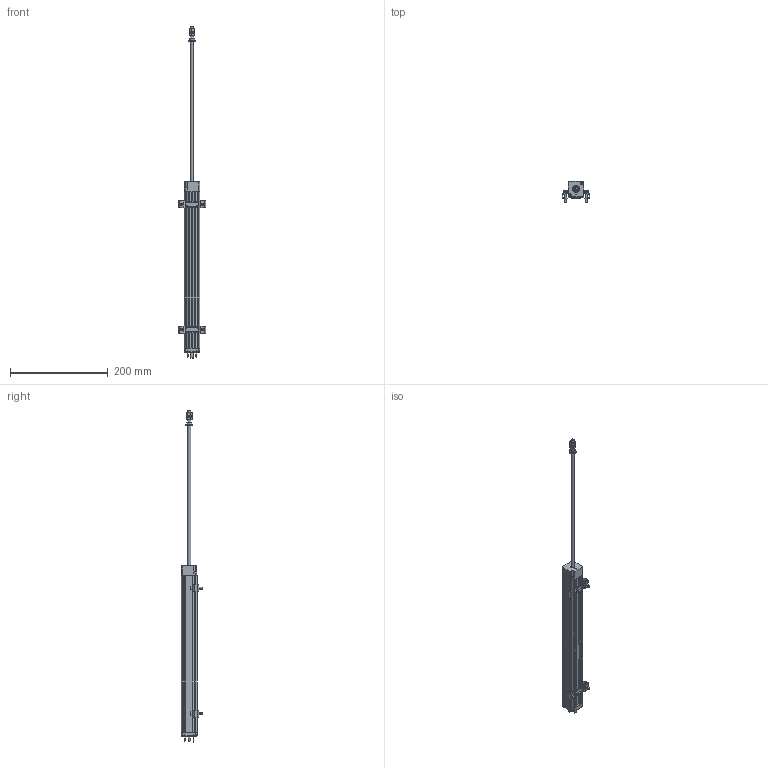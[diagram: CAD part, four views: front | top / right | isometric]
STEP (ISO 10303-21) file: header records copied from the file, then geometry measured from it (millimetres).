
FILE_DESCRIPTION (( 'STEP AP214' ), '1' );
FILE_NAME ('LWH_275.STEP', '2008-11-06T12:00:06', ( 'novotechnik' ), ( 'novotechnik' ), 'SwSTEP 2.0', 'SolidWorks 2008', '' );
FILE_SCHEMA (( 'AUTOMOTIVE_DESIGN' ));
Length unit declared in the file: millimetre
Products named in the file (4): LWH_275_-_Gehaeuse_Standard; LWH_-_Klammer_Standard; LWH_275_-_Schubstange_Standard; LWH_275
Assembly tree (4 placements, depth 2):
  LWH_275
    LWH_275_-_Schubstange_Standard
    LWH_-_Klammer_Standard  x2
    LWH_275_-_Gehaeuse_Standard
Bounding box: 56 x 43.08 x 680 mm (x, y, z)
Volume: 327679 mm3; surface area: 89453.4 mm2
Topology: 35 solids, 35 shells, 1066 faces, 2743 edges, 1770 vertices
Faces by surface type: plane 501, cylinder 392, cone 114, bspline 37, torus 22
Entity records: 39859 total; most frequent: CARTESIAN_POINT 7393, ORIENTED_EDGE 4638, DIRECTION 4515, EDGE_CURVE 2319, AXIS2_PLACEMENT_3D 1590, VERTEX_POINT 1500, VECTOR 1335, LINE 1335
